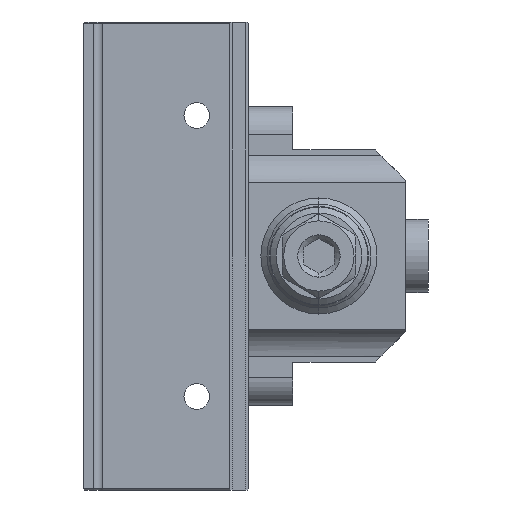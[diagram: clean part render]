
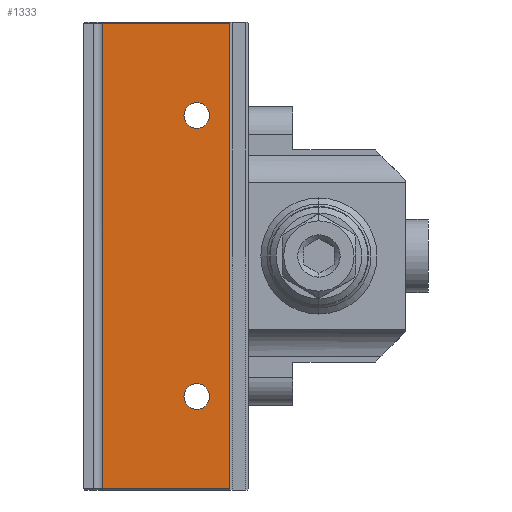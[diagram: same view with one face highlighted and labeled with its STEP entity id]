
A CAD part, left-side view. The second image highlights one B-rep face of the part: STEP entity #1333.
In plain terms, the highlighted planar face has unit normal (-1, 0, 0).
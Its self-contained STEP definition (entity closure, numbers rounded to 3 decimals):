
#115 = VERTEX_POINT ( 'NONE', #1700 ) ;
#168 = CARTESIAN_POINT ( 'NONE',  ( -11.5, 35.5, -38.1 ) ) ;
#174 = CARTESIAN_POINT ( 'NONE',  ( -11.5, 4.25, 38.1 ) ) ;
#243 = VECTOR ( 'NONE', #5971, 1000. ) ;
#270 = AXIS2_PLACEMENT_3D ( 'NONE', #545, #1070, #1661 ) ;
#396 = AXIS2_PLACEMENT_3D ( 'NONE', #4793, #7140, #4308 ) ;
#545 = CARTESIAN_POINT ( 'NONE',  ( -11.5, 20., -23. ) ) ;
#593 = DIRECTION ( 'NONE',  ( 0., 0., 1. ) ) ;
#680 = CARTESIAN_POINT ( 'NONE',  ( -11.5, 20., -25.1 ) ) ;
#728 = CIRCLE ( 'NONE', #396, 2.1 ) ;
#779 = ORIENTED_EDGE ( 'NONE', *, *, #4720, .F. ) ;
#796 = EDGE_LOOP ( 'NONE', ( #3870, #4049 ) ) ;
#823 = FACE_BOUND ( 'NONE', #796, .T. ) ;
#858 = EDGE_CURVE ( 'NONE', #1427, #7047, #3028, .T. ) ;
#952 = CARTESIAN_POINT ( 'NONE',  ( -11.5, 20., 23. ) ) ;
#1070 = DIRECTION ( 'NONE',  ( -1., 0., 0. ) ) ;
#1167 = ORIENTED_EDGE ( 'NONE', *, *, #3911, .F. ) ;
#1333 = ADVANCED_FACE ( 'NONE', ( #6504, #823, #1955 ), #6547, .T. ) ;
#1427 = VERTEX_POINT ( 'NONE', #4646 ) ;
#1536 = VECTOR ( 'NONE', #3610, 1000. ) ;
#1606 = CIRCLE ( 'NONE', #270, 2.1 ) ;
#1661 = DIRECTION ( 'NONE',  ( 0., 0., 1. ) ) ;
#1700 = CARTESIAN_POINT ( 'NONE',  ( -11.5, 14.7, 38.1 ) ) ;
#1955 = FACE_BOUND ( 'NONE', #6082, .T. ) ;
#2028 = DIRECTION ( 'NONE',  ( -1., 0., 0. ) ) ;
#2147 = DIRECTION ( 'NONE',  ( -1., 0., 0. ) ) ;
#2354 = DIRECTION ( 'NONE',  ( 0., -1., 0. ) ) ;
#2474 = AXIS2_PLACEMENT_3D ( 'NONE', #952, #2147, #6753 ) ;
#2647 = EDGE_CURVE ( 'NONE', #4061, #3032, #728, .T. ) ;
#2807 = AXIS2_PLACEMENT_3D ( 'NONE', #4811, #2028, #4251 ) ;
#2890 = CARTESIAN_POINT ( 'NONE',  ( -11.5, 4.25, -38.1 ) ) ;
#3028 = LINE ( 'NONE', #5347, #5923 ) ;
#3032 = VERTEX_POINT ( 'NONE', #6021 ) ;
#3101 = EDGE_CURVE ( 'NONE', #5478, #5651, #7413, .T. ) ;
#3173 = CARTESIAN_POINT ( 'NONE',  ( -11.5, 14.7, 38.3 ) ) ;
#3220 = ORIENTED_EDGE ( 'NONE', *, *, #858, .T. ) ;
#3382 = VERTEX_POINT ( 'NONE', #5459 ) ;
#3610 = DIRECTION ( 'NONE',  ( 0., 1., 0. ) ) ;
#3703 = LINE ( 'NONE', #2890, #7298 ) ;
#3870 = ORIENTED_EDGE ( 'NONE', *, *, #3101, .F. ) ;
#3911 = EDGE_CURVE ( 'NONE', #115, #3382, #7129, .T. ) ;
#3916 = CIRCLE ( 'NONE', #2474, 2.1 ) ;
#4049 = ORIENTED_EDGE ( 'NONE', *, *, #6906, .F. ) ;
#4061 = VERTEX_POINT ( 'NONE', #680 ) ;
#4251 = DIRECTION ( 'NONE',  ( 0., 0., 1. ) ) ;
#4308 = DIRECTION ( 'NONE',  ( 0., 0., 1. ) ) ;
#4646 = CARTESIAN_POINT ( 'NONE',  ( -11.5, 35.5, 38.1 ) ) ;
#4720 = EDGE_CURVE ( 'NONE', #3032, #4061, #1606, .T. ) ;
#4744 = LINE ( 'NONE', #174, #1536 ) ;
#4793 = CARTESIAN_POINT ( 'NONE',  ( -11.5, 20., -23. ) ) ;
#4802 = DIRECTION ( 'NONE',  ( 0., 0., -1. ) ) ;
#4811 = CARTESIAN_POINT ( 'NONE',  ( -11.5, 4.25, 24.4 ) ) ;
#5006 = AXIS2_PLACEMENT_3D ( 'NONE', #5120, #6818, #593 ) ;
#5120 = CARTESIAN_POINT ( 'NONE',  ( -11.5, 20., 23. ) ) ;
#5128 = EDGE_CURVE ( 'NONE', #7047, #3382, #3703, .T. ) ;
#5156 = ORIENTED_EDGE ( 'NONE', *, *, #2647, .F. ) ;
#5347 = CARTESIAN_POINT ( 'NONE',  ( -11.5, 35.5, 38.3 ) ) ;
#5381 = EDGE_LOOP ( 'NONE', ( #1167, #5962, #3220, #6000 ) ) ;
#5459 = CARTESIAN_POINT ( 'NONE',  ( -11.5, 14.7, -38.1 ) ) ;
#5478 = VERTEX_POINT ( 'NONE', #6638 ) ;
#5651 = VERTEX_POINT ( 'NONE', #6195 ) ;
#5923 = VECTOR ( 'NONE', #4802, 1000. ) ;
#5962 = ORIENTED_EDGE ( 'NONE', *, *, #7380, .T. ) ;
#5971 = DIRECTION ( 'NONE',  ( 0., 0., -1. ) ) ;
#6000 = ORIENTED_EDGE ( 'NONE', *, *, #5128, .T. ) ;
#6021 = CARTESIAN_POINT ( 'NONE',  ( -11.5, 20., -20.9 ) ) ;
#6082 = EDGE_LOOP ( 'NONE', ( #779, #5156 ) ) ;
#6195 = CARTESIAN_POINT ( 'NONE',  ( -11.5, 20., 20.9 ) ) ;
#6504 = FACE_OUTER_BOUND ( 'NONE', #5381, .T. ) ;
#6547 = PLANE ( 'NONE',  #2807 ) ;
#6638 = CARTESIAN_POINT ( 'NONE',  ( -11.5, 20., 25.1 ) ) ;
#6753 = DIRECTION ( 'NONE',  ( 0., 0., 1. ) ) ;
#6818 = DIRECTION ( 'NONE',  ( -1., 0., 0. ) ) ;
#6906 = EDGE_CURVE ( 'NONE', #5651, #5478, #3916, .T. ) ;
#7047 = VERTEX_POINT ( 'NONE', #168 ) ;
#7129 = LINE ( 'NONE', #3173, #243 ) ;
#7140 = DIRECTION ( 'NONE',  ( -1., 0., 0. ) ) ;
#7298 = VECTOR ( 'NONE', #2354, 1000. ) ;
#7380 = EDGE_CURVE ( 'NONE', #115, #1427, #4744, .T. ) ;
#7413 = CIRCLE ( 'NONE', #5006, 2.1 ) ;
